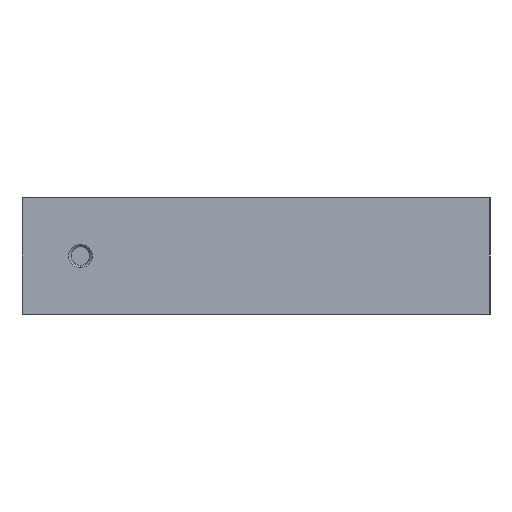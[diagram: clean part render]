
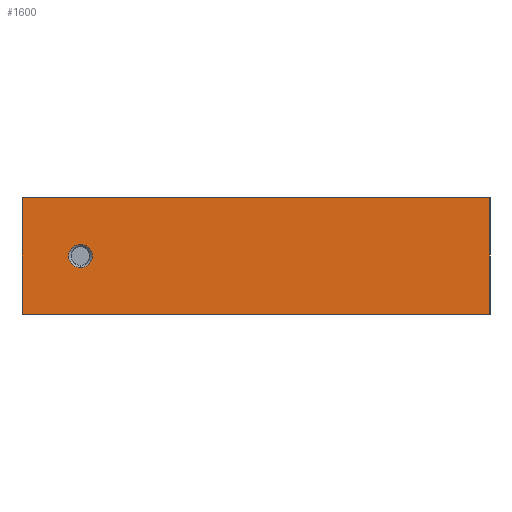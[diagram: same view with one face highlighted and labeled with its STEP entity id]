
A CAD part, left-side view. The second image highlights one B-rep face of the part: STEP entity #1600.
In plain terms, the highlighted planar face has unit normal (-1, 0, 0).
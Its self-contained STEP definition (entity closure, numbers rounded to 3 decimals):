
#60 = CARTESIAN_POINT ( 'NONE',  ( -30., -20., 0. ) ) ;
#62 = CARTESIAN_POINT ( 'NONE',  ( -30., 20., 0. ) ) ;
#91 = CARTESIAN_POINT ( 'NONE',  ( -30., 15., 4. ) ) ;
#110 = CARTESIAN_POINT ( 'NONE',  ( -30., 15., 6. ) ) ;
#121 = CARTESIAN_POINT ( 'NONE',  ( -30., 20., 10. ) ) ;
#123 = CARTESIAN_POINT ( 'NONE',  ( -30., -20., 10. ) ) ;
#290 = ORIENTED_EDGE ( 'NONE', *, *, #1191, .F. ) ;
#303 = ORIENTED_EDGE ( 'NONE', *, *, #1199, .F. ) ;
#320 = ORIENTED_EDGE ( 'NONE', *, *, #1214, .T. ) ;
#524 = VECTOR ( 'NONE', #1678, 1000. ) ;
#526 = VECTOR ( 'NONE', #1716, 1000. ) ;
#560 = LINE ( 'NONE', #2160, #524 ) ;
#567 = LINE ( 'NONE', #1736, #526 ) ;
#588 = VECTOR ( 'NONE', #1829, 1000. ) ;
#594 = LINE ( 'NONE', #1804, #588 ) ;
#597 = LINE ( 'NONE', #1872, #605 ) ;
#605 = VECTOR ( 'NONE', #1918, 1000. ) ;
#630 = CIRCLE ( 'NONE', #1408, 1. ) ;
#658 = CIRCLE ( 'NONE', #1427, 1. ) ;
#829 = EDGE_LOOP ( 'NONE', ( #2289, #320 ) ) ;
#844 = EDGE_LOOP ( 'NONE', ( #2280, #303, #290, #2235 ) ) ;
#1066 = FACE_BOUND ( 'NONE', #829, .T. ) ;
#1106 = FACE_OUTER_BOUND ( 'NONE', #844, .T. ) ;
#1191 = EDGE_CURVE ( 'NONE', #2354, #2357, #560, .T. ) ;
#1199 = EDGE_CURVE ( 'NONE', #2357, #2183, #567, .T. ) ;
#1214 = EDGE_CURVE ( 'NONE', #2319, #2322, #630, .T. ) ;
#1217 = EDGE_CURVE ( 'NONE', #2354, #2193, #594, .T. ) ;
#1228 = EDGE_CURVE ( 'NONE', #2193, #2183, #597, .T. ) ;
#1242 = EDGE_CURVE ( 'NONE', #2322, #2319, #658, .T. ) ;
#1408 = AXIS2_PLACEMENT_3D ( 'NONE', #1774, #1778, #1780 ) ;
#1427 = AXIS2_PLACEMENT_3D ( 'NONE', #1964, #1931, #1942 ) ;
#1502 = AXIS2_PLACEMENT_3D ( 'NONE', #2976, #2947, #2986 ) ;
#1600 = ADVANCED_FACE ( 'NONE', ( #1066, #1106 ), #2919, .F. ) ;
#1678 = DIRECTION ( 'NONE',  ( 0., -1., 0. ) ) ;
#1716 = DIRECTION ( 'NONE',  ( 0., 0., -1. ) ) ;
#1736 = CARTESIAN_POINT ( 'NONE',  ( -30., -20., 10. ) ) ;
#1774 = CARTESIAN_POINT ( 'NONE',  ( -30., 15., 5. ) ) ;
#1778 = DIRECTION ( 'NONE',  ( 1., 0., 0. ) ) ;
#1780 = DIRECTION ( 'NONE',  ( 0., 1., 0. ) ) ;
#1804 = CARTESIAN_POINT ( 'NONE',  ( -30., 20., 10. ) ) ;
#1829 = DIRECTION ( 'NONE',  ( 0., 0., -1. ) ) ;
#1872 = CARTESIAN_POINT ( 'NONE',  ( -30., 20., 0. ) ) ;
#1918 = DIRECTION ( 'NONE',  ( 0., -1., 0. ) ) ;
#1931 = DIRECTION ( 'NONE',  ( 1., 0., 0. ) ) ;
#1942 = DIRECTION ( 'NONE',  ( 0., 1., 0. ) ) ;
#1964 = CARTESIAN_POINT ( 'NONE',  ( -30., 15., 5. ) ) ;
#2160 = CARTESIAN_POINT ( 'NONE',  ( -30., 20., 10. ) ) ;
#2183 = VERTEX_POINT ( 'NONE', #60 ) ;
#2193 = VERTEX_POINT ( 'NONE', #62 ) ;
#2235 = ORIENTED_EDGE ( 'NONE', *, *, #1217, .T. ) ;
#2280 = ORIENTED_EDGE ( 'NONE', *, *, #1228, .T. ) ;
#2289 = ORIENTED_EDGE ( 'NONE', *, *, #1242, .T. ) ;
#2319 = VERTEX_POINT ( 'NONE', #91 ) ;
#2322 = VERTEX_POINT ( 'NONE', #110 ) ;
#2354 = VERTEX_POINT ( 'NONE', #121 ) ;
#2357 = VERTEX_POINT ( 'NONE', #123 ) ;
#2919 = PLANE ( 'NONE',  #1502 ) ;
#2947 = DIRECTION ( 'NONE',  ( 1., 0., 0. ) ) ;
#2976 = CARTESIAN_POINT ( 'NONE',  ( -30., 20., 10. ) ) ;
#2986 = DIRECTION ( 'NONE',  ( 0., 1., 0. ) ) ;
